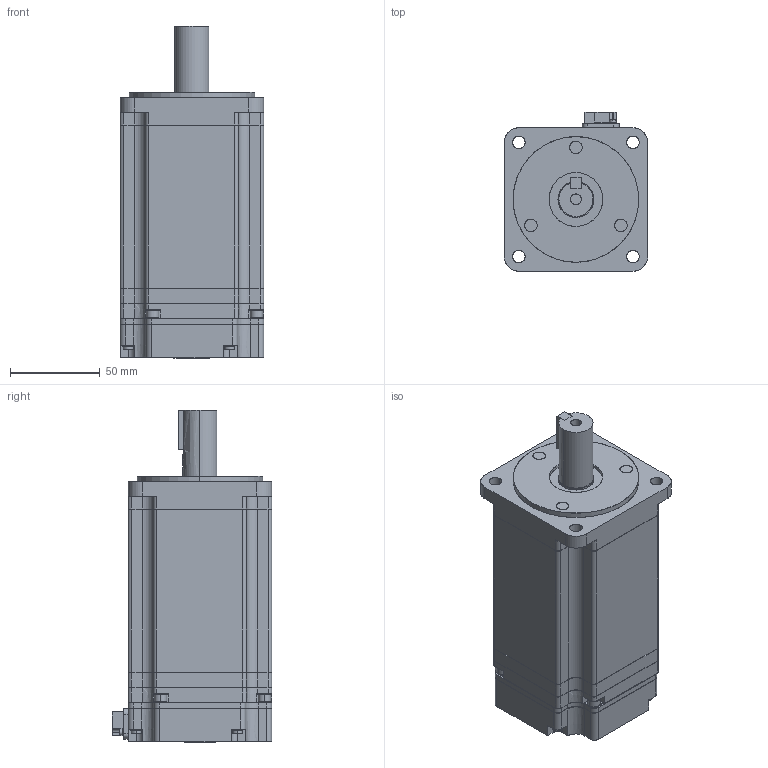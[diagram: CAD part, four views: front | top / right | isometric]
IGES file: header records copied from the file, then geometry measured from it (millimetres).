
Start section: SolidWorks IGES file using analytic representation for surfaces
Global section: file name: C:\YASKAWA\sgmav_10a_a61.IGS; native system: SolidWorks 2006 by SolidWorks Corporation; preprocessor: SolidWorks 2006 by SolidWorks Corporation; author: yamanouchi; date: 090327.152301; units: millimetre
Bounding box: 80.1 x 88.8 x 185.1 mm (x, y, z)
Surface area: 66266.9 mm2 (no closed solid volume)
Topology: 0 solids, 0 shells, 494 faces, 6722 edges, 6722 vertices
Faces by surface type: bspline 274, revolution 220
